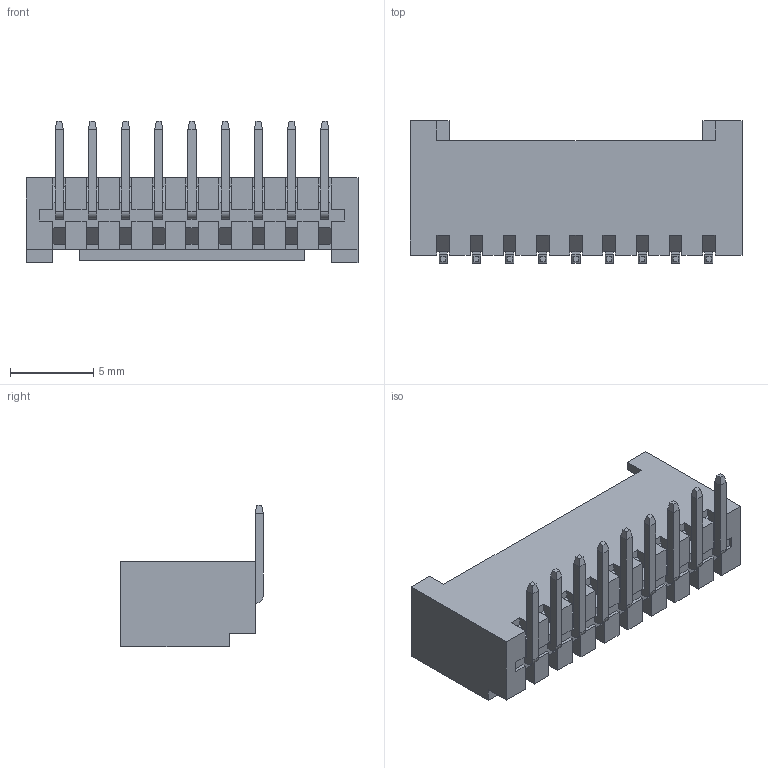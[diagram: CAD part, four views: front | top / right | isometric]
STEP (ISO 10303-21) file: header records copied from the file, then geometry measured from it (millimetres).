
FILE_DESCRIPTION(('CATIA V5 STEP Exchange'),'2;1');
FILE_NAME('\\Erp\共享文件夹\3D文件\小覃\条形连接器-小黄\HY\NAW\HC-PHD-9AW-05(2.0 单排 弯针-HCTL).stp','2025-03-04T08:30:12+00:00',('none'),('none'),'CATIA Version 5 Release 20 GA (IN-10)','CATIA V5 STEP AP203','none');
FILE_SCHEMA(('CONFIG_CONTROL_DESIGN'));
Length unit declared in the file: millimetre
Products named in the file (1): Part4
Bounding box: 20 x 8.6 x 8.5 mm (x, y, z)
Volume: 318.4 mm3; surface area: 960.1 mm2
Topology: 1 solids, 1 shells, 334 faces, 868 edges, 554 vertices
Faces by surface type: plane 325, cylinder 9
Entity records: 8862 total; most frequent: ORIENTED_EDGE 1736, CARTESIAN_POINT 1541, DIRECTION 1104, EDGE_CURVE 868, VECTOR 850, LINE 850, VERTEX_POINT 554, EDGE_LOOP 352
